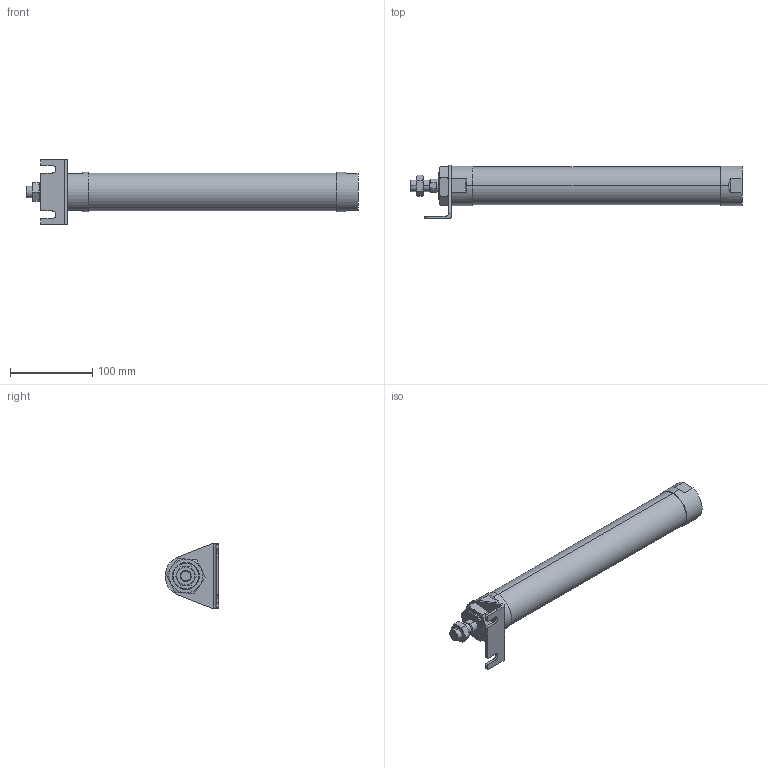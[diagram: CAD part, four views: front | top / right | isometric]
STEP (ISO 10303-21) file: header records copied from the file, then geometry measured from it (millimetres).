
FILE_DESCRIPTION (( 'STEP AP203' ), '1' );
FILE_NAME ('JGND2-40-250-L.STEP', '2016-08-04T03:15:18', ( '' ), ( '' ), 'SwSTEP 2.0', 'SolidWorks 2014', '' );
FILE_SCHEMA (( 'CONFIG_CONTROL_DESIGN' ));
Length unit declared in the file: millimetre
Products named in the file (5): J#2-40-L; J#2-40-250(P); JGND2-40-250-L
Assembly tree (4 placements, depth 2):
  JGND2-40-250-L
    J#2-40-250(P)
    (unnamed)
    (unnamed)
    J#2-40-L
Bounding box: 403 x 65 x 80 mm (x, y, z)
Volume: 635325.8 mm3; surface area: 76058.3 mm2
Topology: 4 solids, 4 shells, 116 faces, 273 edges, 167 vertices
Faces by surface type: plane 47, cylinder 32, torus 24, cone 13
Entity records: 4269 total; most frequent: CARTESIAN_POINT 1150, DIRECTION 548, ORIENTED_EDGE 538, EDGE_CURVE 269, AXIS2_PLACEMENT_3D 219, VERTEX_POINT 167, EDGE_LOOP 128, FACE_OUTER_BOUND 116
